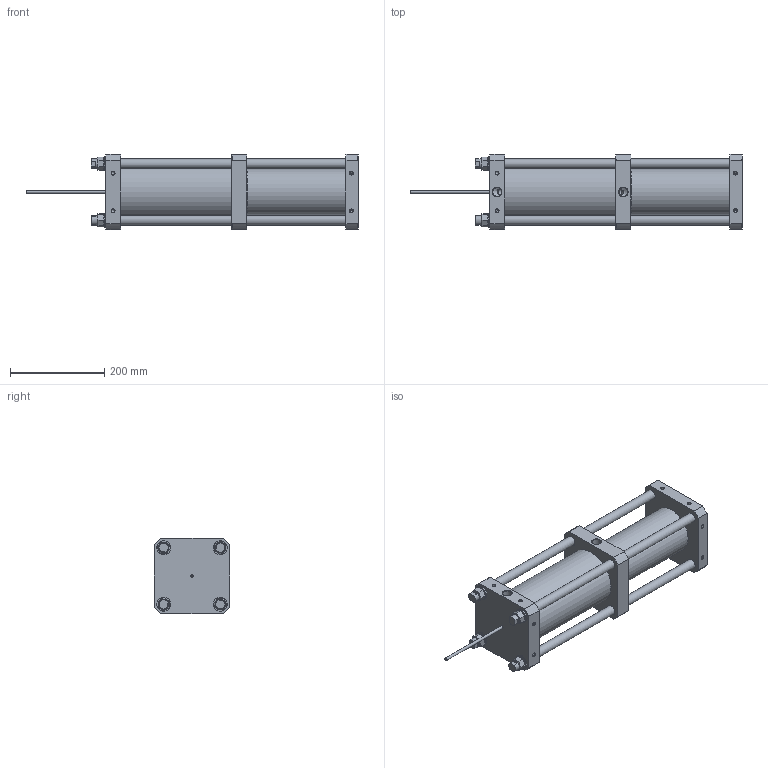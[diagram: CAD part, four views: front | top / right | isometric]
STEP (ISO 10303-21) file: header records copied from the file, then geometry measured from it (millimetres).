
FILE_DESCRIPTION(/* description */ (''),/* implementation_level */ '2;1');
FILE_NAME(/* name */ 'H32.7000.stp',/* time_stamp */ '2026-04-24T11:24:58+02:00',/* author */ ('janos'),/* organization */ (''),/* preprocessor_version */ 'ST-DEVELOPER v19.2',/* originating_system */ 'Autodesk Inventor 2024',/* authorisation */ '');
FILE_SCHEMA (('AUTOMOTIVE_DESIGN { 1 0 10303 214 3 1 1 }'));
Length unit declared in the file: millimetre
Products named in the file (1): HDÜ.BG.7000.32.1_Vereinfachen_1
Bounding box: 705 x 160 x 160 mm (x, y, z)
Volume: 7135868.5 mm3; surface area: 472112.5 mm2
Topology: 1 solids, 1 shells, 223 faces, 568 edges, 362 vertices
Faces by surface type: cone 86, plane 81, cylinder 55, torus 1
Full cylindrical faces by diameter (mm): 6 x1, 6.647 x16, 13 x2, 18.376 x1, 18.631 x2, 20 x8, 21 x4, 30 x4, 45 x1, 99 x1, 120 x1
Entity records: 6715 total; most frequent: CARTESIAN_POINT 1440, DIRECTION 1103, ORIENTED_EDGE 1100, EDGE_CURVE 550, AXIS2_PLACEMENT_3D 441, VERTEX_POINT 362, EDGE_LOOP 276, FACE_OUTER_BOUND 223
